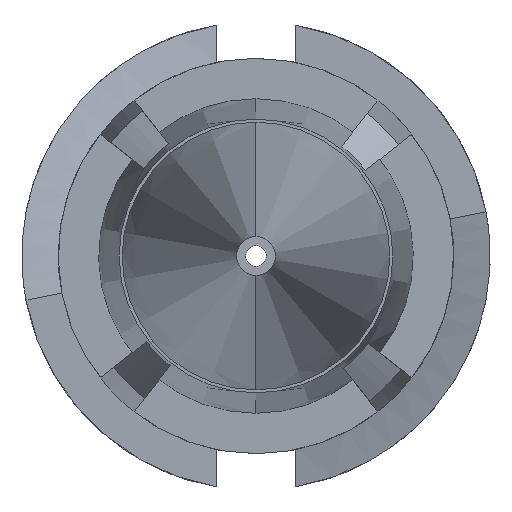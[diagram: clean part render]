
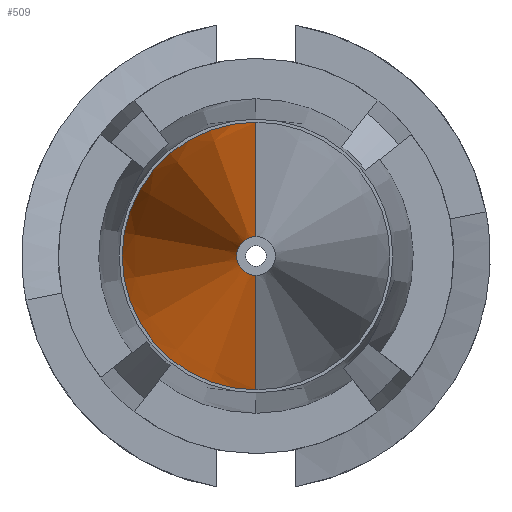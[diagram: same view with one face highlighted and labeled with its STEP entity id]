
A CAD part, left-side view. The second image highlights one B-rep face of the part: STEP entity #509.
In plain terms, the highlighted conical face has half-angle 5.996 degrees and reference radius 2.2 mm.
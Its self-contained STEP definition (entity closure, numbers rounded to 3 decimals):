
#98 = EDGE_CURVE ( 'NONE', #1200, #1013, #1439, .T. ) ;
#181 = CARTESIAN_POINT ( 'NONE',  ( -14., 0., -2.2 ) ) ;
#282 = DIRECTION ( 'NONE',  ( 0., 0., -1. ) ) ;
#319 = AXIS2_PLACEMENT_3D ( 'NONE', #1116, #1391, #282 ) ;
#418 = EDGE_CURVE ( 'NONE', #1247, #1864, #711, .T. ) ;
#438 = VECTOR ( 'NONE', #1328, 1000. ) ;
#465 = AXIS2_PLACEMENT_3D ( 'NONE', #1213, #514, #1789 ) ;
#509 = ADVANCED_FACE ( 'NONE', ( #1063 ), #1526, .T. ) ;
#514 = DIRECTION ( 'NONE',  ( 1., 0., 0. ) ) ;
#515 = CARTESIAN_POINT ( 'NONE',  ( -14., 0., 2.2 ) ) ;
#587 = CARTESIAN_POINT ( 'NONE',  ( -14., 0., 0. ) ) ;
#619 = AXIS2_PLACEMENT_3D ( 'NONE', #587, #1638, #752 ) ;
#711 = CIRCLE ( 'NONE', #465, 2.2 ) ;
#752 = DIRECTION ( 'NONE',  ( 0., 0., -1. ) ) ;
#875 = ORIENTED_EDGE ( 'NONE', *, *, #1693, .T. ) ;
#881 = EDGE_CURVE ( 'NONE', #1200, #1247, #1749, .T. ) ;
#966 = EDGE_LOOP ( 'NONE', ( #1363, #875, #1140, #1111 ) ) ;
#992 = CARTESIAN_POINT ( 'NONE',  ( -14., 0., 2.2 ) ) ;
#1013 = VERTEX_POINT ( 'NONE', #1843 ) ;
#1063 = FACE_OUTER_BOUND ( 'NONE', #966, .T. ) ;
#1111 = ORIENTED_EDGE ( 'NONE', *, *, #881, .F. ) ;
#1116 = CARTESIAN_POINT ( 'NONE',  ( -31.9, 0., 0. ) ) ;
#1140 = ORIENTED_EDGE ( 'NONE', *, *, #418, .F. ) ;
#1156 = CARTESIAN_POINT ( 'NONE',  ( -14., 0., -2.2 ) ) ;
#1196 = LINE ( 'NONE', #515, #1779 ) ;
#1200 = VERTEX_POINT ( 'NONE', #1228 ) ;
#1213 = CARTESIAN_POINT ( 'NONE',  ( -14., 0., 0. ) ) ;
#1223 = DIRECTION ( 'NONE',  ( 0.995, 0., 0.104 ) ) ;
#1228 = CARTESIAN_POINT ( 'NONE',  ( -31.9, 0., -0.32 ) ) ;
#1247 = VERTEX_POINT ( 'NONE', #1156 ) ;
#1328 = DIRECTION ( 'NONE',  ( 0.995, 0., -0.104 ) ) ;
#1363 = ORIENTED_EDGE ( 'NONE', *, *, #98, .T. ) ;
#1391 = DIRECTION ( 'NONE',  ( 1., 0., 0. ) ) ;
#1439 = CIRCLE ( 'NONE', #319, 0.32 ) ;
#1526 = CONICAL_SURFACE ( 'NONE', #619, 2.2, 0.105 ) ;
#1638 = DIRECTION ( 'NONE',  ( 1., 0., 0. ) ) ;
#1693 = EDGE_CURVE ( 'NONE', #1013, #1864, #1196, .T. ) ;
#1749 = LINE ( 'NONE', #181, #438 ) ;
#1779 = VECTOR ( 'NONE', #1223, 1000. ) ;
#1789 = DIRECTION ( 'NONE',  ( 0., 0., -1. ) ) ;
#1843 = CARTESIAN_POINT ( 'NONE',  ( -31.9, 0., 0.32 ) ) ;
#1864 = VERTEX_POINT ( 'NONE', #992 ) ;
